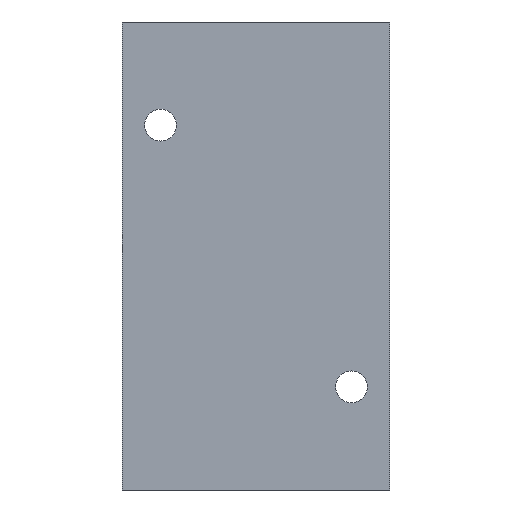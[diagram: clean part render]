
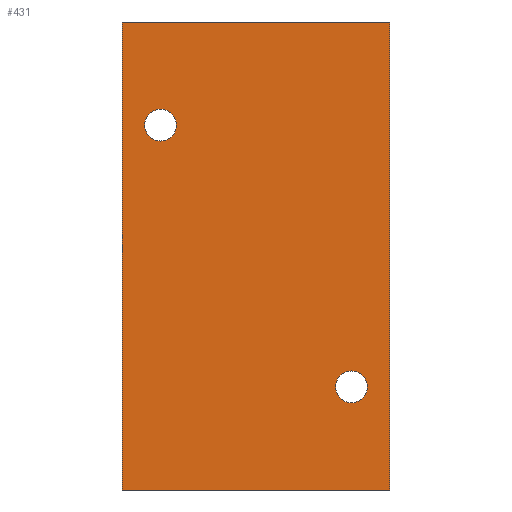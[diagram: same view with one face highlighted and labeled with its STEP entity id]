
A CAD part, front view. The second image highlights one B-rep face of the part: STEP entity #431.
In plain terms, the highlighted planar face has unit normal (0, -1, 0).
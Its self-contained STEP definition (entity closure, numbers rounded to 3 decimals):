
#70 = EDGE_LOOP ( 'NONE', ( #102, #149 ) ) ;
#72 = CIRCLE ( 'NONE', #1226, 5.15 ) ;
#74 = EDGE_CURVE ( 'NONE', #396, #1052, #229, .T. ) ;
#102 = ORIENTED_EDGE ( 'NONE', *, *, #1458, .F. ) ;
#110 = ORIENTED_EDGE ( 'NONE', *, *, #131, .F. ) ;
#116 = FACE_BOUND ( 'NONE', #1129, .T. ) ;
#122 = VERTEX_POINT ( 'NONE', #553 ) ;
#131 = EDGE_CURVE ( 'NONE', #637, #349, #298, .T. ) ;
#145 = DIRECTION ( 'NONE',  ( 0., 0., -1. ) ) ;
#149 = ORIENTED_EDGE ( 'NONE', *, *, #1533, .F. ) ;
#167 = CARTESIAN_POINT ( 'NONE',  ( 31., -35., -42.5 ) ) ;
#177 = CARTESIAN_POINT ( 'NONE',  ( -43.5, -35., 76. ) ) ;
#229 = CIRCLE ( 'NONE', #899, 5.15 ) ;
#239 = CARTESIAN_POINT ( 'NONE',  ( -31., -35., 37.35 ) ) ;
#260 = CARTESIAN_POINT ( 'NONE',  ( 43.5, -35., -76. ) ) ;
#266 = CIRCLE ( 'NONE', #1360, 5.15 ) ;
#269 = DIRECTION ( 'NONE',  ( 0., 0., -1. ) ) ;
#282 = AXIS2_PLACEMENT_3D ( 'NONE', #1013, #1044, #1694 ) ;
#298 = LINE ( 'NONE', #825, #473 ) ;
#299 = DIRECTION ( 'NONE',  ( 0., -1., 0. ) ) ;
#349 = VERTEX_POINT ( 'NONE', #260 ) ;
#396 = VERTEX_POINT ( 'NONE', #630 ) ;
#406 = DIRECTION ( 'NONE',  ( 0., 0., -1. ) ) ;
#425 = LINE ( 'NONE', #1202, #1384 ) ;
#431 = ADVANCED_FACE ( 'NONE', ( #1297, #116, #1673 ), #1685, .F. ) ;
#448 = CARTESIAN_POINT ( 'NONE',  ( -43.5, -35., 76. ) ) ;
#449 = AXIS2_PLACEMENT_3D ( 'NONE', #167, #543, #406 ) ;
#457 = ORIENTED_EDGE ( 'NONE', *, *, #891, .F. ) ;
#469 = ORIENTED_EDGE ( 'NONE', *, *, #560, .T. ) ;
#473 = VECTOR ( 'NONE', #1215, 1000. ) ;
#543 = DIRECTION ( 'NONE',  ( 0., -1., 0. ) ) ;
#553 = CARTESIAN_POINT ( 'NONE',  ( -43.5, -35., -76. ) ) ;
#560 = EDGE_CURVE ( 'NONE', #122, #349, #1331, .T. ) ;
#568 = VERTEX_POINT ( 'NONE', #1580 ) ;
#603 = EDGE_CURVE ( 'NONE', #1517, #122, #425, .T. ) ;
#629 = ORIENTED_EDGE ( 'NONE', *, *, #74, .F. ) ;
#630 = CARTESIAN_POINT ( 'NONE',  ( -31., -35., 47.65 ) ) ;
#637 = VERTEX_POINT ( 'NONE', #925 ) ;
#678 = DIRECTION ( 'NONE',  ( 0., 0., -1. ) ) ;
#710 = EDGE_LOOP ( 'NONE', ( #469, #110, #457, #830 ) ) ;
#776 = CARTESIAN_POINT ( 'NONE',  ( 31., -35., -37.35 ) ) ;
#825 = CARTESIAN_POINT ( 'NONE',  ( 43.5, -35., 76. ) ) ;
#826 = DIRECTION ( 'NONE',  ( 0., 0., -1. ) ) ;
#830 = ORIENTED_EDGE ( 'NONE', *, *, #603, .T. ) ;
#891 = EDGE_CURVE ( 'NONE', #1517, #637, #1618, .T. ) ;
#899 = AXIS2_PLACEMENT_3D ( 'NONE', #1449, #1333, #269 ) ;
#925 = CARTESIAN_POINT ( 'NONE',  ( 43.5, -35., 76. ) ) ;
#943 = DIRECTION ( 'NONE',  ( 0., -1., 0. ) ) ;
#971 = VECTOR ( 'NONE', #1583, 1000. ) ;
#996 = DIRECTION ( 'NONE',  ( 1., 0., 0. ) ) ;
#1013 = CARTESIAN_POINT ( 'NONE',  ( -43.5, -35., 76. ) ) ;
#1014 = VERTEX_POINT ( 'NONE', #776 ) ;
#1044 = DIRECTION ( 'NONE',  ( 0., 1., 0. ) ) ;
#1052 = VERTEX_POINT ( 'NONE', #239 ) ;
#1066 = VECTOR ( 'NONE', #996, 1000. ) ;
#1129 = EDGE_LOOP ( 'NONE', ( #1315, #629 ) ) ;
#1202 = CARTESIAN_POINT ( 'NONE',  ( -43.5, -35., 76. ) ) ;
#1215 = DIRECTION ( 'NONE',  ( 0., 0., -1. ) ) ;
#1226 = AXIS2_PLACEMENT_3D ( 'NONE', #1480, #299, #826 ) ;
#1297 = FACE_BOUND ( 'NONE', #70, .T. ) ;
#1315 = ORIENTED_EDGE ( 'NONE', *, *, #1461, .F. ) ;
#1331 = LINE ( 'NONE', #1598, #971 ) ;
#1333 = DIRECTION ( 'NONE',  ( 0., -1., 0. ) ) ;
#1347 = CARTESIAN_POINT ( 'NONE',  ( -31., -35., 42.5 ) ) ;
#1360 = AXIS2_PLACEMENT_3D ( 'NONE', #1347, #943, #145 ) ;
#1384 = VECTOR ( 'NONE', #678, 1000. ) ;
#1449 = CARTESIAN_POINT ( 'NONE',  ( -31., -35., 42.5 ) ) ;
#1458 = EDGE_CURVE ( 'NONE', #568, #1014, #72, .T. ) ;
#1461 = EDGE_CURVE ( 'NONE', #1052, #396, #266, .T. ) ;
#1480 = CARTESIAN_POINT ( 'NONE',  ( 31., -35., -42.5 ) ) ;
#1517 = VERTEX_POINT ( 'NONE', #177 ) ;
#1533 = EDGE_CURVE ( 'NONE', #1014, #568, #1556, .T. ) ;
#1556 = CIRCLE ( 'NONE', #449, 5.15 ) ;
#1580 = CARTESIAN_POINT ( 'NONE',  ( 31., -35., -47.65 ) ) ;
#1583 = DIRECTION ( 'NONE',  ( 1., 0., 0. ) ) ;
#1598 = CARTESIAN_POINT ( 'NONE',  ( -43.5, -35., -76. ) ) ;
#1618 = LINE ( 'NONE', #448, #1066 ) ;
#1673 = FACE_OUTER_BOUND ( 'NONE', #710, .T. ) ;
#1685 = PLANE ( 'NONE',  #282 ) ;
#1694 = DIRECTION ( 'NONE',  ( 0., 0., 1. ) ) ;
